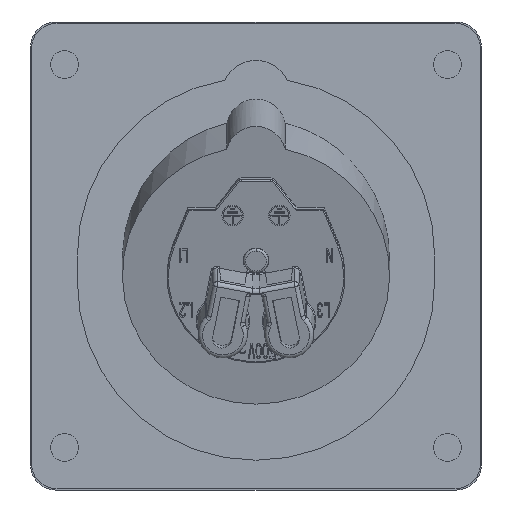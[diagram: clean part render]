
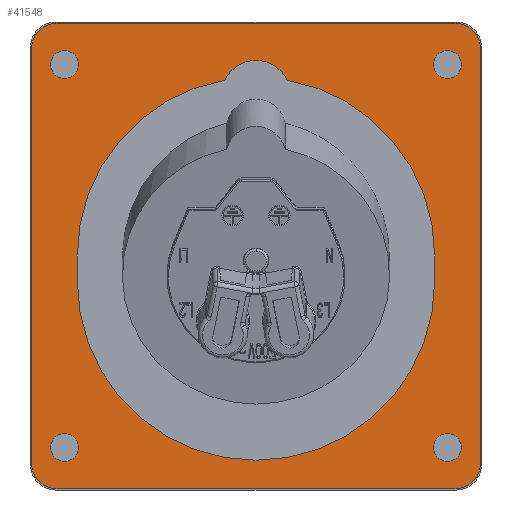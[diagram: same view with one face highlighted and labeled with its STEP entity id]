
A CAD part, front view. The second image highlights one B-rep face of the part: STEP entity #41548.
In plain terms, the highlighted planar face has unit normal (0, -1, 0).
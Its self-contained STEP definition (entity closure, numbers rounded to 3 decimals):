
#12303=CARTESIAN_POINT('',(-46.75,-4.,-48.75));
#12304=DIRECTION('',(0.,-1.,0.));
#12305=DIRECTION('',(-1.,0.,0.));
#12306=AXIS2_PLACEMENT_3D('',#12303,#12304,#12305);
#12311=DIRECTION('',(0.,0.,-1.));
#12312=VECTOR('',#12311,97.5);
#12313=CARTESIAN_POINT('',(-52.75,-4.,48.75));
#12314=LINE('3574',#12313,#12312);
#12318=CARTESIAN_POINT('',(-46.75,-4.,48.75));
#12319=DIRECTION('',(0.,-1.,0.));
#12320=DIRECTION('',(0.,0.,1.));
#12321=AXIS2_PLACEMENT_3D('',#12318,#12319,#12320);
#12326=DIRECTION('',(-1.,0.,0.));
#12327=VECTOR('',#12326,93.5);
#12328=CARTESIAN_POINT('',(46.75,-4.,54.75));
#12329=LINE('3573',#12328,#12327);
#12333=CARTESIAN_POINT('',(46.75,-4.,48.75));
#12334=DIRECTION('',(0.,-1.,0.));
#12335=DIRECTION('',(1.,0.,0.));
#12336=AXIS2_PLACEMENT_3D('',#12333,#12334,#12335);
#12341=DIRECTION('',(0.,0.,1.));
#12342=VECTOR('',#12341,97.5);
#12343=CARTESIAN_POINT('',(52.75,-4.,-48.75));
#12344=LINE('3572',#12343,#12342);
#12348=CARTESIAN_POINT('',(46.75,-4.,-48.75));
#12349=DIRECTION('',(0.,-1.,0.));
#12350=DIRECTION('',(0.,0.,-1.));
#12351=AXIS2_PLACEMENT_3D('',#12348,#12349,#12350);
#12356=DIRECTION('',(1.,0.,0.));
#12357=VECTOR('',#12356,93.5);
#12358=CARTESIAN_POINT('',(-46.75,-4.,-54.75));
#12359=LINE('3575',#12358,#12357);
#12363=CARTESIAN_POINT('',(-45.,-4.,-45.));
#12364=DIRECTION('',(0.,-1.,0.));
#12365=DIRECTION('',(-1.,0.,0.));
#12366=AXIS2_PLACEMENT_3D('',#12363,#12364,#12365);
#12371=CARTESIAN_POINT('',(-45.,-4.,-45.));
#12372=DIRECTION('',(0.,-1.,0.));
#12373=DIRECTION('',(1.,0.,0.));
#12374=AXIS2_PLACEMENT_3D('',#12371,#12372,#12373);
#12379=CARTESIAN_POINT('',(45.,-4.,-45.));
#12380=DIRECTION('',(0.,-1.,0.));
#12381=DIRECTION('',(-1.,0.,0.));
#12382=AXIS2_PLACEMENT_3D('',#12379,#12380,#12381);
#12387=CARTESIAN_POINT('',(45.,-4.,-45.));
#12388=DIRECTION('',(0.,-1.,0.));
#12389=DIRECTION('',(1.,0.,0.));
#12390=AXIS2_PLACEMENT_3D('',#12387,#12388,#12389);
#12395=CARTESIAN_POINT('',(45.,-4.,45.));
#12396=DIRECTION('',(0.,-1.,0.));
#12397=DIRECTION('',(-1.,0.,0.));
#12398=AXIS2_PLACEMENT_3D('',#12395,#12396,#12397);
#12403=CARTESIAN_POINT('',(45.,-4.,45.));
#12404=DIRECTION('',(0.,-1.,0.));
#12405=DIRECTION('',(1.,0.,0.));
#12406=AXIS2_PLACEMENT_3D('',#12403,#12404,#12405);
#12411=CARTESIAN_POINT('',(-45.,-4.,45.));
#12412=DIRECTION('',(0.,-1.,0.));
#12413=DIRECTION('',(-1.,0.,0.));
#12414=AXIS2_PLACEMENT_3D('',#12411,#12412,#12413);
#12419=CARTESIAN_POINT('',(-45.,-4.,45.));
#12420=DIRECTION('',(0.,-1.,0.));
#12421=DIRECTION('',(1.,0.,0.));
#12422=AXIS2_PLACEMENT_3D('',#12419,#12420,#12421);
#12427=CARTESIAN_POINT('',(0.,-4.,-6.));
#12428=DIRECTION('',(0.,-1.,0.));
#12429=DIRECTION('',(-1.,0.,0.));
#12430=AXIS2_PLACEMENT_3D('',#12427,#12428,#12429);
#12435=DIRECTION('',(0.,0.,1.));
#12436=VECTOR('',#12435,6.);
#12437=CARTESIAN_POINT('',(42.,-4.,-6.));
#12438=LINE('3585',#12437,#12436);
#12442=CARTESIAN_POINT('',(0.,-4.,0.));
#12443=DIRECTION('',(0.,-1.,0.));
#12444=DIRECTION('',(1.,0.,0.));
#12445=AXIS2_PLACEMENT_3D('',#12442,#12443,#12444);
#12450=CARTESIAN_POINT('',(0.,-4.,38.));
#12451=DIRECTION('',(0.,-1.,0.));
#12452=DIRECTION('',(0.907,0.,0.421));
#12453=AXIS2_PLACEMENT_3D('',#12450,#12451,#12452);
#12458=CARTESIAN_POINT('',(0.,-4.,0.));
#12459=DIRECTION('',(0.,-1.,0.));
#12460=DIRECTION('',(-0.173,0.,0.985));
#12461=AXIS2_PLACEMENT_3D('',#12458,#12459,#12460);
#12466=DIRECTION('',(0.,0.,-1.));
#12467=VECTOR('',#12466,6.);
#12468=CARTESIAN_POINT('',(-42.,-4.,0.));
#12469=LINE('3589',#12468,#12467);
#24070=CARTESIAN_POINT('',(-52.75,-4.,-48.75));
#24071=CARTESIAN_POINT('',(-46.75,-4.,-54.75));
#24072=VERTEX_POINT('',#24070);
#24073=VERTEX_POINT('',#24071);
#24074=CARTESIAN_POINT('',(46.75,-4.,-54.75));
#24075=CARTESIAN_POINT('',(52.75,-4.,-48.75));
#24076=VERTEX_POINT('',#24074);
#24077=VERTEX_POINT('',#24075);
#24078=CARTESIAN_POINT('',(52.75,-4.,48.75));
#24079=CARTESIAN_POINT('',(46.75,-4.,54.75));
#24080=VERTEX_POINT('',#24078);
#24081=VERTEX_POINT('',#24079);
#24082=CARTESIAN_POINT('',(-46.75,-4.,54.75));
#24083=CARTESIAN_POINT('',(-52.75,-4.,48.75));
#24084=VERTEX_POINT('',#24082);
#24085=VERTEX_POINT('',#24083);
#24086=CARTESIAN_POINT('',(-48.25,-4.,-45.));
#24087=CARTESIAN_POINT('',(-41.75,-4.,-45.));
#24088=VERTEX_POINT('',#24086);
#24089=VERTEX_POINT('',#24087);
#24090=CARTESIAN_POINT('',(41.75,-4.,-45.));
#24091=CARTESIAN_POINT('',(48.25,-4.,-45.));
#24092=VERTEX_POINT('',#24090);
#24093=VERTEX_POINT('',#24091);
#24094=CARTESIAN_POINT('',(41.75,-4.,45.));
#24095=CARTESIAN_POINT('',(48.25,-4.,45.));
#24096=VERTEX_POINT('',#24094);
#24097=VERTEX_POINT('',#24095);
#24098=CARTESIAN_POINT('',(-48.25,-4.,45.));
#24099=CARTESIAN_POINT('',(-41.75,-4.,45.));
#24100=VERTEX_POINT('',#24098);
#24101=VERTEX_POINT('',#24099);
#24102=CARTESIAN_POINT('',(-42.,-4.,-6.));
#24103=CARTESIAN_POINT('',(42.,-4.,-6.));
#24104=VERTEX_POINT('',#24102);
#24105=VERTEX_POINT('',#24103);
#24106=CARTESIAN_POINT('',(42.,-4.,0.));
#24107=VERTEX_POINT('',#24106);
#24108=CARTESIAN_POINT('',(7.256,-4.,41.368));
#24109=VERTEX_POINT('',#24108);
#24110=CARTESIAN_POINT('',(-7.256,-4.,41.368));
#24111=VERTEX_POINT('',#24110);
#24112=CARTESIAN_POINT('',(-42.,-4.,0.));
#24113=VERTEX_POINT('',#24112);
#41495=CARTESIAN_POINT('',(0.,-4.,0.));
#41496=DIRECTION('',(0.,-1.,0.));
#41497=DIRECTION('',(-1.,0.,0.));
#41498=AXIS2_PLACEMENT_3D('',#41495,#41496,#41497);
#41499=PLANE('1233',#41498);
#41500=ORIENTED_EDGE('3568',*,*,#41374,.F.);
#41501=ORIENTED_EDGE('3574',*,*,#41400,.F.);
#41502=ORIENTED_EDGE('3571',*,*,#41426,.F.);
#41503=ORIENTED_EDGE('3573',*,*,#41452,.F.);
#41504=ORIENTED_EDGE('3570',*,*,#41477,.F.);
#41505=ORIENTED_EDGE('3572',*,*,#41295,.F.);
#41506=ORIENTED_EDGE('3569',*,*,#41322,.F.);
#41507=ORIENTED_EDGE('3575',*,*,#41348,.F.);
#41508=EDGE_LOOP('1233',(#41500,#41501,#41502,#41503,#41504,#41505,#41506,
#41507));
#41509=FACE_OUTER_BOUND('1233',#41508,.F.);
#41511=ORIENTED_EDGE('3576',*,*,#41510,.T.);
#41513=ORIENTED_EDGE('3577',*,*,#41512,.T.);
#41514=EDGE_LOOP('1233',(#41511,#41513));
#41515=FACE_BOUND('1233',#41514,.F.);
#41517=ORIENTED_EDGE('3578',*,*,#41516,.T.);
#41519=ORIENTED_EDGE('3579',*,*,#41518,.T.);
#41520=EDGE_LOOP('1233',(#41517,#41519));
#41521=FACE_BOUND('1233',#41520,.F.);
#41523=ORIENTED_EDGE('3580',*,*,#41522,.T.);
#41525=ORIENTED_EDGE('3581',*,*,#41524,.T.);
#41526=EDGE_LOOP('1233',(#41523,#41525));
#41527=FACE_BOUND('1233',#41526,.F.);
#41529=ORIENTED_EDGE('3582',*,*,#41528,.T.);
#41531=ORIENTED_EDGE('3583',*,*,#41530,.T.);
#41532=EDGE_LOOP('1233',(#41529,#41531));
#41533=FACE_BOUND('1233',#41532,.F.);
#41535=ORIENTED_EDGE('3584',*,*,#41534,.T.);
#41537=ORIENTED_EDGE('3585',*,*,#41536,.T.);
#41539=ORIENTED_EDGE('3586',*,*,#41538,.T.);
#41541=ORIENTED_EDGE('3587',*,*,#41540,.T.);
#41543=ORIENTED_EDGE('3588',*,*,#41542,.T.);
#41545=ORIENTED_EDGE('3589',*,*,#41544,.T.);
#41546=EDGE_LOOP('1233',(#41535,#41537,#41539,#41541,#41543,#41545));
#41547=FACE_BOUND('1233',#41546,.F.);
#12307=CIRCLE('3568',#12306,6.);
#12322=CIRCLE('3571',#12321,6.);
#12337=CIRCLE('3570',#12336,6.);
#12352=CIRCLE('3569',#12351,6.);
#12367=CIRCLE('3576',#12366,3.25);
#12375=CIRCLE('3577',#12374,3.25);
#12383=CIRCLE('3578',#12382,3.25);
#12391=CIRCLE('3579',#12390,3.25);
#12399=CIRCLE('3580',#12398,3.25);
#12407=CIRCLE('3581',#12406,3.25);
#12415=CIRCLE('3582',#12414,3.25);
#12423=CIRCLE('3583',#12422,3.25);
#12431=CIRCLE('3584',#12430,42.);
#12446=CIRCLE('3586',#12445,42.);
#12454=CIRCLE('3587',#12453,8.);
#12462=CIRCLE('3588',#12461,42.);
#41295=EDGE_CURVE('3572',#24077,#24080,#12344,.T.);
#41322=EDGE_CURVE('3569',#24076,#24077,#12352,.T.);
#41348=EDGE_CURVE('3575',#24073,#24076,#12359,.T.);
#41374=EDGE_CURVE('3568',#24072,#24073,#12307,.T.);
#41400=EDGE_CURVE('3574',#24085,#24072,#12314,.T.);
#41426=EDGE_CURVE('3571',#24084,#24085,#12322,.T.);
#41452=EDGE_CURVE('3573',#24081,#24084,#12329,.T.);
#41477=EDGE_CURVE('3570',#24080,#24081,#12337,.T.);
#41510=EDGE_CURVE('3576',#24088,#24089,#12367,.T.);
#41512=EDGE_CURVE('3577',#24089,#24088,#12375,.T.);
#41516=EDGE_CURVE('3578',#24092,#24093,#12383,.T.);
#41518=EDGE_CURVE('3579',#24093,#24092,#12391,.T.);
#41522=EDGE_CURVE('3580',#24096,#24097,#12399,.T.);
#41524=EDGE_CURVE('3581',#24097,#24096,#12407,.T.);
#41528=EDGE_CURVE('3582',#24100,#24101,#12415,.T.);
#41530=EDGE_CURVE('3583',#24101,#24100,#12423,.T.);
#41534=EDGE_CURVE('3584',#24104,#24105,#12431,.T.);
#41536=EDGE_CURVE('3585',#24105,#24107,#12438,.T.);
#41538=EDGE_CURVE('3586',#24107,#24109,#12446,.T.);
#41540=EDGE_CURVE('3587',#24109,#24111,#12454,.T.);
#41542=EDGE_CURVE('3588',#24111,#24113,#12462,.T.);
#41544=EDGE_CURVE('3589',#24113,#24104,#12469,.T.);
#41548=ADVANCED_FACE('1233',(#41509,#41515,#41521,#41527,#41533,#41547),#41499,
.T.);
